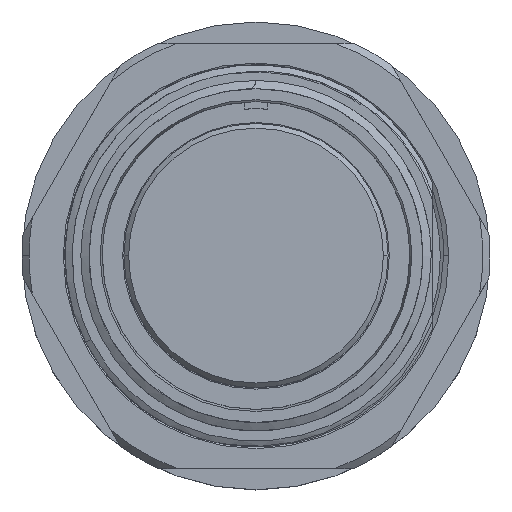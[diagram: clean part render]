
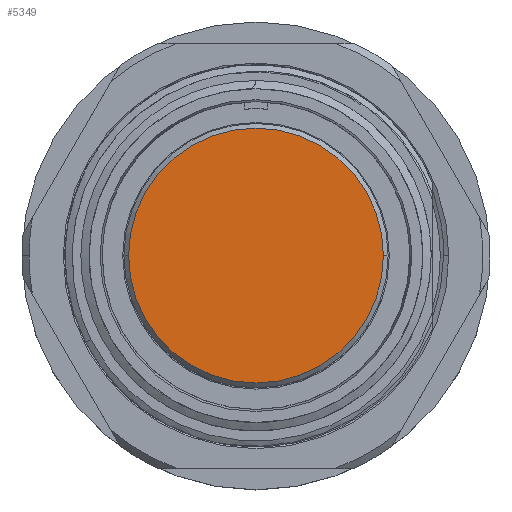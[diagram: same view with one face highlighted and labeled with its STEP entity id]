
A CAD part, top view. The second image highlights one B-rep face of the part: STEP entity #5349.
In plain terms, the highlighted planar face has unit normal (0, 0, 1).
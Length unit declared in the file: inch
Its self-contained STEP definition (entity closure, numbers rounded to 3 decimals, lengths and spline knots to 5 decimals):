
#977 = CARTESIAN_POINT ( 'NONE',  ( 0., 0., -0.018 ) ) ;
#1249 = ORIENTED_EDGE ( 'NONE', *, *, #12016, .T. ) ;
#1519 = DIRECTION ( 'NONE',  ( 1., 0., 0. ) ) ;
#2407 = VERTEX_POINT ( 'NONE', #8115 ) ;
#2462 = DIRECTION ( 'NONE',  ( 0., 0., 1. ) ) ;
#3386 = VERTEX_POINT ( 'NONE', #6344 ) ;
#3488 = CARTESIAN_POINT ( 'NONE',  ( 0., 0., -0.018 ) ) ;
#4037 = AXIS2_PLACEMENT_3D ( 'NONE', #977, #6906, #10346 ) ;
#5102 = CIRCLE ( 'NONE', #6986, 0.542 ) ;
#5349 = ADVANCED_FACE ( 'NONE', ( #13551 ), #5497, .T. ) ;
#5381 = ORIENTED_EDGE ( 'NONE', *, *, #14358, .T. ) ;
#5497 = PLANE ( 'NONE',  #4037 ) ;
#5816 = EDGE_LOOP ( 'NONE', ( #5381, #1249 ) ) ;
#5863 = DIRECTION ( 'NONE',  ( 1., 0., 0. ) ) ;
#6344 = CARTESIAN_POINT ( 'NONE',  ( -0.542, 0., -0.018 ) ) ;
#6906 = DIRECTION ( 'NONE',  ( 0., 0., 1. ) ) ;
#6986 = AXIS2_PLACEMENT_3D ( 'NONE', #3488, #2462, #5863 ) ;
#8115 = CARTESIAN_POINT ( 'NONE',  ( 0.542, 0., -0.018 ) ) ;
#10346 = DIRECTION ( 'NONE',  ( 1., 0., 0. ) ) ;
#10601 = DIRECTION ( 'NONE',  ( 0., 0., 1. ) ) ;
#12016 = EDGE_CURVE ( 'NONE', #2407, #3386, #5102, .T. ) ;
#12511 = AXIS2_PLACEMENT_3D ( 'NONE', #14166, #10601, #1519 ) ;
#13003 = CIRCLE ( 'NONE', #12511, 0.542 ) ;
#13551 = FACE_OUTER_BOUND ( 'NONE', #5816, .T. ) ;
#14166 = CARTESIAN_POINT ( 'NONE',  ( 0., 0., -0.018 ) ) ;
#14358 = EDGE_CURVE ( 'NONE', #3386, #2407, #13003, .T. ) ;
